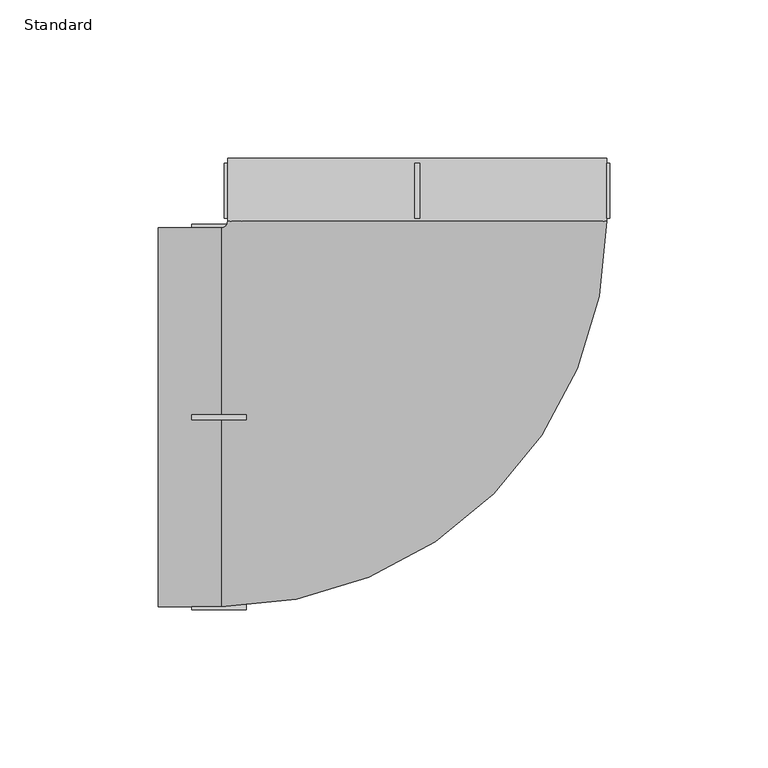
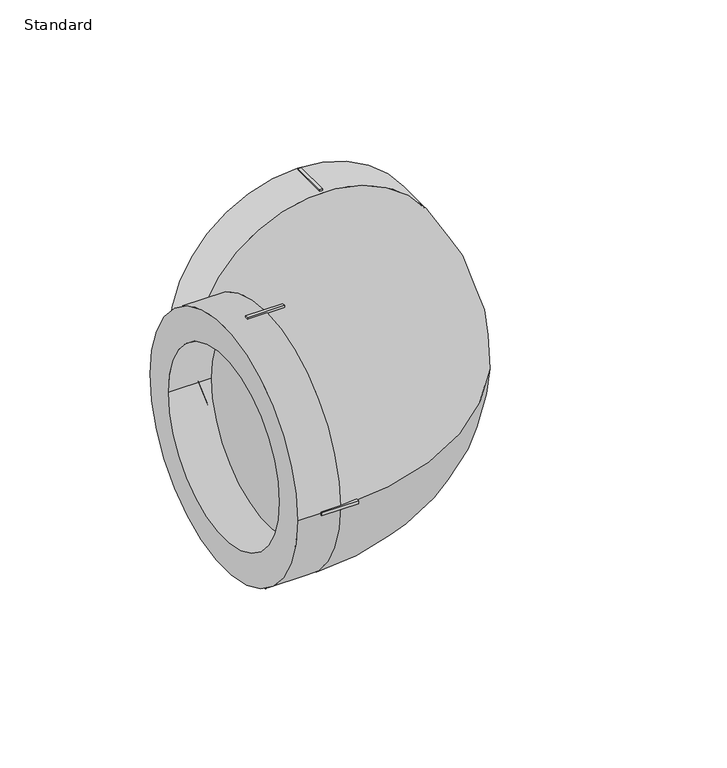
"""IFC4 building model written with IfcOpenShell, lengths in millimetres: pipe fitting geometry, EGB_VASEN_ PPR_Codo 90 WXR200_Codo 45 WXR220  : Standard."""

from ifc_helpers import new_model, si_unit, point, frame, origin, place, context, project, spatial, polyline, circle_curve, ellipse_curve, trimmed, outline, extrude, source, transform, mapped, element, save
from ifc_brep_helpers import plane_surface, cylinder_surface, revolved_surface, advanced_brep


def standard_c6c8b520(model_context):
    return source(origin(), model_context, "Body", "SolidModel", [
        advanced_brep(
        [(-82.0, -60.0, 0.0), (-82.0, 60.0, 0.0), (-82.0, -45.0, 0.0), (-82.0, 45.0, 0.0), (-62.0, -60.0, 0.0), (-62.0, 60.0, 0.0), (-62.0, -45.0, 0.0), (-62.0, 45.0, 0.0), (45.0, 62.0, 0.0), (-45.0, 62.0, 0.0), (-60.0, 62.0, 0.0), (60.0, 62.0, 0.0), (0.0, 62.0, 60.0), (0.0, 62.0, -60.0), (60.0, 82.0, 0.0), (-60.0, 82.0, 0.0), (45.0, 82.0, 0.0), (-45.0, 82.0, 0.0)],
        [
            (0, 1, circle_curve(frame((-82.0, 0.0, 0.0), z_axis=(-1.0, 0.0, 0.0), x_axis=(0.0, 1.0, 0.0)), 60.0)),
            (1, 0, circle_curve(frame((-82.0, 0.0, 0.0), z_axis=(-1.0, 0.0, 0.0), x_axis=(0.0, 1.0, 0.0)), 60.0)),
            (2, 3, circle_curve(frame((-82.0, 0.0, 0.0), z_axis=(1.0, 0.0, 0.0), x_axis=(0.0, 1.0, 0.0)), 45.0)),
            (3, 2, circle_curve(frame((-82.0, 0.0, 0.0), z_axis=(1.0, 0.0, 0.0), x_axis=(0.0, 1.0, 0.0)), 45.0)),
            (0, 4),
            (4, 5, circle_curve(frame((-62.0, 0.0, 0.0), z_axis=(-1.0, 0.0, 0.0), x_axis=(0.0, 1.0, 0.0)), 60.0)),
            (5, 1),
            (5, 4, circle_curve(frame((-62.0, 0.0, 0.0), z_axis=(-1.0, 0.0, 0.0), x_axis=(0.0, 1.0, 0.0)), 60.0)),
            (2, 6),
            (6, 7, circle_curve(frame((-62.0, 0.0, 0.0), z_axis=(1.0, 0.0, 0.0), x_axis=(0.0, 1.0, 0.0)), 45.0)),
            (7, 3),
            (7, 6, circle_curve(frame((-62.0, 0.0, 0.0), z_axis=(1.0, 0.0, 0.0), x_axis=(0.0, 1.0, 0.0)), 45.0)),
            (8, 9, circle_curve(frame((0.0, 62.0, 0.0), z_axis=(0.0, 1.0, 0.0), x_axis=(-1.0, 0.0, 0.0)), 45.0)),
            (9, 8, circle_curve(frame((0.0, 62.0, 0.0), z_axis=(0.0, 1.0, 0.0), x_axis=(-1.0, 0.0, 0.0)), 45.0)),
            (10, 5, circle_curve(frame((-62.0, 62.0, 0.0), z_axis=(0.0, 0.0, -1.0), x_axis=(0.0, -1.0, 0.0)), 2.0)),
            (4, 11, circle_curve(frame((-62.0, 62.0, 0.0), z_axis=(0.0, 0.0, 1.0), x_axis=(0.0, -1.0, 0.0)), 122.0)),
            (11, 12, circle_curve(frame((0.0, 62.0, 0.0), z_axis=(0.0, -1.0, 0.0), x_axis=(-1.0, 0.0, 0.0)), 60.0)),
            (12, 10, circle_curve(frame((0.0, 62.0, 0.0), z_axis=(0.0, -1.0, 0.0), x_axis=(-1.0, 0.0, 0.0)), 60.0)),
            (10, 13, circle_curve(frame((0.0, 62.0, 0.0), z_axis=(0.0, -1.0, 0.0), x_axis=(-1.0, 0.0, 0.0)), 60.0)),
            (13, 11, circle_curve(frame((0.0, 62.0, 0.0), z_axis=(0.0, -1.0, 0.0), x_axis=(-1.0, 0.0, 0.0)), 60.0)),
            (14, 15, circle_curve(frame((0.0, 82.0, 0.0), z_axis=(0.0, 1.0, 0.0), x_axis=(-1.0, 0.0, 0.0)), 60.0)),
            (15, 14, circle_curve(frame((0.0, 82.0, 0.0), z_axis=(0.0, 1.0, 0.0), x_axis=(-1.0, 0.0, 0.0)), 60.0)),
            (16, 17, circle_curve(frame((0.0, 82.0, 0.0), z_axis=(0.0, -1.0, 0.0), x_axis=(-1.0, 0.0, 0.0)), 45.0)),
            (17, 16, circle_curve(frame((0.0, 82.0, 0.0), z_axis=(0.0, -1.0, 0.0), x_axis=(-1.0, 0.0, 0.0)), 45.0)),
            (15, 10),
            (11, 14),
            (17, 9),
            (8, 16),
        ],
        [
            plane_surface(frame((-82.0, 0.0, 0.0), z_axis=(-1.0, 0.0, 0.0), x_axis=(0.0, 0.0, 1.0))),
            cylinder_surface(frame((-82.0, 0.0, 0.0), z_axis=(-1.0, 0.0, 0.0), x_axis=(0.0, 1.0, 0.0)), 60.0),
            revolved_surface(polyline([(-62.0, 45.0, 0.0), (-82.0, 45.0, 0.0)]), (-82.0, 0.0, 0.0), (1.0, 0.0, 0.0)),
            plane_surface(frame((-62.0, 0.0, 0.0), z_axis=(-1.0, 0.0, 0.0), x_axis=(0.0, 0.0, 1.0))),
            plane_surface(frame((0.0, 62.0, 0.0), z_axis=(0.0, 1.0, 0.0), x_axis=(0.0, 0.0, 1.0))),
            revolved_surface(trimmed(ellipse_curve(frame((-62.0, 0.0, 0.0), z_axis=(-1.0, 0.0, 0.0), x_axis=(0.0, 1.0, 0.0)), 60.0, 60.0), [point((-62.0, -60.0, 0.0))], [point((-62.0, 60.0, 0.0))], True, "CARTESIAN"), (-62.0, 62.0, 0.0), (0.0, 0.0, 1.0)),
            revolved_surface(trimmed(ellipse_curve(frame((-62.0, 0.0, 0.0), z_axis=(-1.0, 0.0, 0.0), x_axis=(0.0, 1.0, 0.0)), 60.0, 60.0), [point((-62.0, 60.0, 0.0))], [point((-62.0, -60.0, 0.0))], True, "CARTESIAN"), (-62.0, 62.0, 0.0), (0.0, 0.0, 1.0)),
            plane_surface(frame((0.0, 82.0, 0.0), z_axis=(0.0, 1.0, 0.0), x_axis=(0.0, 0.0, 1.0))),
            cylinder_surface(frame((0.0, 62.0, 0.0), z_axis=(0.0, -1.0, 0.0), x_axis=(-1.0, 0.0, 0.0)), 60.0),
            revolved_surface(polyline([(-45.0, 82.0, 0.0), (-45.0, 62.0, 0.0)]), (0.0, 62.0, 0.0), (0.0, 1.0, 0.0)),
        ],
        [
            (0, [[1, 2], [3, 4]]),
            (1, [[-1, 5, 6, 7]]),
            (1, [[-2, -7, 8, -5]]),
            (2, [[-3, 9, 10, 11]]),
            (2, [[-4, -11, 12, -9]]),
            (3, [[-10, -12]]),
            (4, [[13, 14]]),
            (5, [[15, -6, 16, 17, 18]]),
            (6, [[-15, 19, 20, -16, -8]]),
            (7, [[21, 22], [23, 24]]),
            (8, [[-22, 25, -18, -17, 26]]),
            (8, [[-21, -26, -20, -19, -25]]),
            (9, [[-24, 27, -13, 28]]),
            (9, [[-23, -28, -14, -27]]),
        ],
    ),
        extrude(outline(polyline([(0.75, 63.0), (-0.75, 63.0), (-0.75, 80.4), (0.75, 80.4), (0.75, 63.0)])), frame((0.0, 0.0, 59.0), z_axis=(0.0, 0.0, 1.0), x_axis=(1.0, 0.0, 0.0)), (0.0, 0.0, 1.0), 2.0),
        extrude(outline(polyline([(-59.0, 63.0), (-61.0, 63.0), (-61.0, 80.4), (-59.0, 80.4), (-59.0, 63.0)])), frame((0.0, 0.0, -0.75), z_axis=(0.0, 0.0, 1.0), x_axis=(1.0, 0.0, 0.0)), (0.0, 0.0, 1.0), 1.5),
        extrude(outline(polyline([(61.0, 63.0), (59.0, 63.0), (59.0, 80.4), (61.0, 80.4), (61.0, 63.0)])), frame((0.0, 0.0, -0.75), z_axis=(0.0, 0.0, 1.0), x_axis=(1.0, 0.0, 0.0)), (0.0, 0.0, 1.0), 1.5),
        extrude(outline(polyline([(0.75, 63.0), (-0.75, 63.0), (-0.75, 80.4), (0.75, 80.4), (0.75, 63.0)])), frame((0.0, 0.0, -61.0), z_axis=(0.0, 0.0, 1.0), x_axis=(1.0, 0.0, 0.0)), (0.0, 0.0, 1.0), 2.0),
        extrude(outline(polyline([(-54.0, 0.75), (-54.0, -0.75), (-71.4, -0.75), (-71.4, 0.75), (-54.0, 0.75)])), frame((0.0, 0.0, 59.0), z_axis=(0.0, 0.0, 1.0), x_axis=(1.0, 0.0, 0.0)), (0.0, 0.0, 1.0), 2.0),
        extrude(outline(polyline([(-54.0, 0.75), (-54.0, -0.75), (-71.4, -0.75), (-71.4, 0.75), (-54.0, 0.75)])), frame((0.0, 0.0, -61.0), z_axis=(0.0, 0.0, 1.0), x_axis=(1.0, 0.0, 0.0)), (0.0, 0.0, 1.0), 2.0),
        extrude(outline(polyline([(-54.0, 61.0), (-54.0, 59.0), (-71.4, 59.0), (-71.4, 61.0), (-54.0, 61.0)])), frame((0.0, 0.0, -0.75), z_axis=(0.0, 0.0, 1.0), x_axis=(1.0, 0.0, 0.0)), (0.0, 0.0, 1.0), 1.5),
        extrude(outline(polyline([(-54.0, -59.0), (-54.0, -61.0), (-71.4, -61.0), (-71.4, -59.0), (-54.0, -59.0)])), frame((0.0, 0.0, -0.75), z_axis=(0.0, 0.0, 1.0), x_axis=(1.0, 0.0, 0.0)), (0.0, 0.0, 1.0), 1.5),
    ])


if __name__ == "__main__":
    model = new_model("IFC4")
    model_context = context("Model", 3, world=origin())
    ifc_project = project(units=[si_unit("LENGTHUNIT", "METRE", prefix="MILLI")], contexts=[model_context])
    site = spatial("IfcSite", under=ifc_project)
    building = spatial("IfcBuilding", under=site)
    placement = place(None, origin())
    standard_shape = standard_c6c8b520(model_context)
    element("IfcPipeFitting", 1, ObjectType="EGB_VASEN_ PPR_Codo 90 WXR200_Codo 45 WXR220  : Standard", at=placement, inside=building, context=model_context, shape_type="MappedRepresentation", body=[
        mapped(standard_shape, transform((0.0, 0.0, 0.0), x_axis=(1.0, 0.0, 0.0), y_axis=(0.0, 1.0, 0.0), z_axis=(0.0, 0.0, 1.0))),
    ])
    save(model, "model.ifc")
